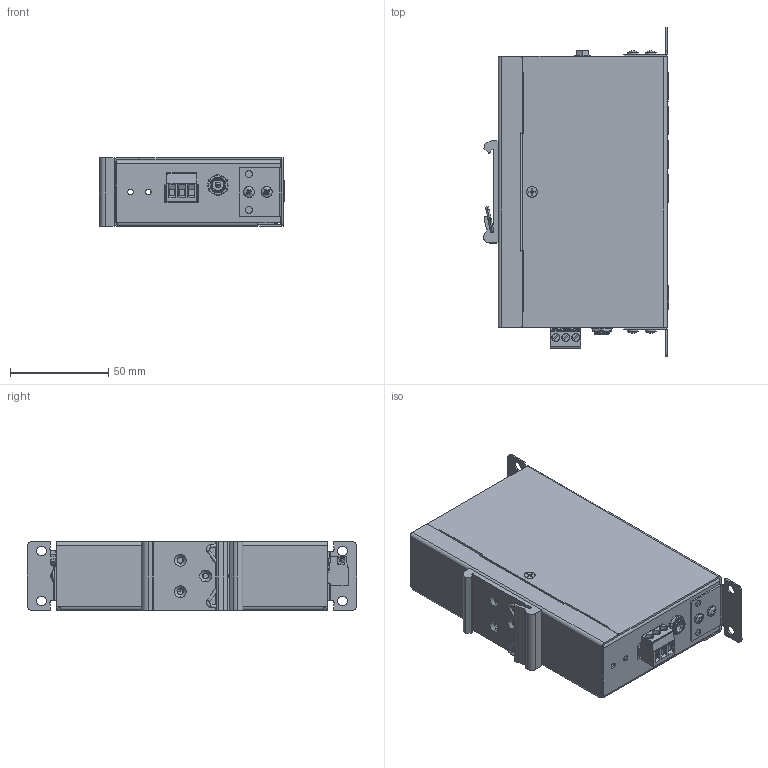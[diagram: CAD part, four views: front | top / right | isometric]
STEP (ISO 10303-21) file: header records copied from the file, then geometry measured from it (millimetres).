
FILE_DESCRIPTION (( 'STEP AP214' ), '1' );
FILE_NAME ('UHRX04.STEP', '2018-05-21T18:19:21', ( '' ), ( '' ), 'SwSTEP 2.0', 'SolidWorks 2016', '' );
FILE_SCHEMA (( 'AUTOMOTIVE_DESIGN' ));
Length unit declared in the file: inch
Products named in the file (24): 6256; LED_bi-level_green_553-0111.2; LED_551-3009; terminal_block; mstb_2.5-3-st-5.08_plug; terminal_block_header_3_position_21.95MH-3; USB-B; Samtec-USBR-A-S-S-O-TH.4; 8845_idf; 230-11628-00; 8856; 8839; Screw, PH 4-40 x .188 lg; 8840; 8842_pos; UHRX04 Customer label; PEM_standoff_4-40_438Long; railclip_assy_8571_asm; SPRING_8571; UHRX04; RAILCLIP_8571; screw_FH_4-40_188Long_93085A105; PCB_assembly
Assembly tree (40 placements, depth 4):
  UHRX04
    230-11628-00
      8840
        PEM_standoff_4-40_438Long  x4
        8840
      8839
    PCB_assembly
      8845_idf
      Samtec-USBR-A-S-S-O-TH.4  x4
      USB-B
      terminal_block
        terminal_block_header_3_position_21.95MH-3
        mstb_2.5-3-st-5.08_plug
      LED_551-3009
      LED_bi-level_green_553-0111.2  x2
      6256
    screw_FH_4-40_188Long_93085A105  x3
    railclip_assy_8571_asm
      RAILCLIP_8571
      SPRING_8571
    UHRX04 Customer label
    8842_pos  x2
    Screw, PH 4-40 x .188 lg  x8
    8856
Bounding box: 94.39 x 168.19 x 35 mm (x, y, z)
Volume: 74979.8 mm3; surface area: 131309.9 mm2
Topology: 37 solids, 37 shells, 3568 faces, 9281 edges, 5879 vertices
Faces by surface type: plane 1895, cylinder 1124, cone 397, torus 81, bspline 55, sphere 16
Entity records: 74068 total; most frequent: CARTESIAN_POINT 18758, ORIENTED_EDGE 9720, DIRECTION 9100, EDGE_CURVE 4860, VERTEX_POINT 3133, AXIS2_PLACEMENT_3D 3055, VECTOR 2990, LINE 2990
